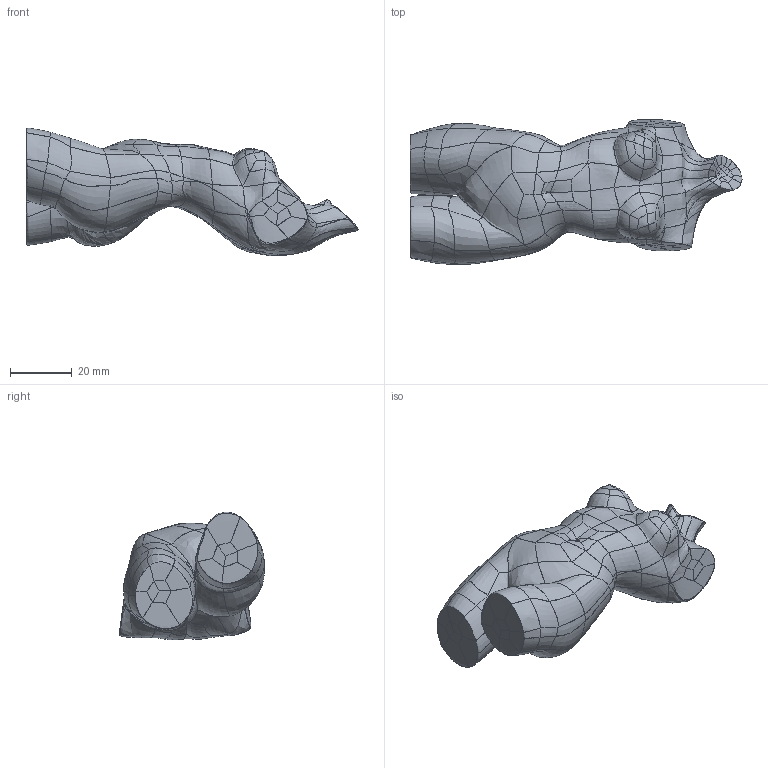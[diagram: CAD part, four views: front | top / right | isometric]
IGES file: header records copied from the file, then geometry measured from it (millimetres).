
Global section: file name: Carmen.igs; native system: THINKDESIGN 8.4.0; preprocessor: PDElib Version 4.0, created Mon Oct 07, 2002 at 18:44:48; date: 20050207.143028; units: millimetre
Bounding box: 107.69 x 47.03 x 41.41 mm (x, y, z)
Surface area: 13073.5 mm2 (no closed solid volume)
Topology: 0 solids, 0 shells, 298 faces, 1208 edges, 1208 vertices
Faces by surface type: bspline 298
